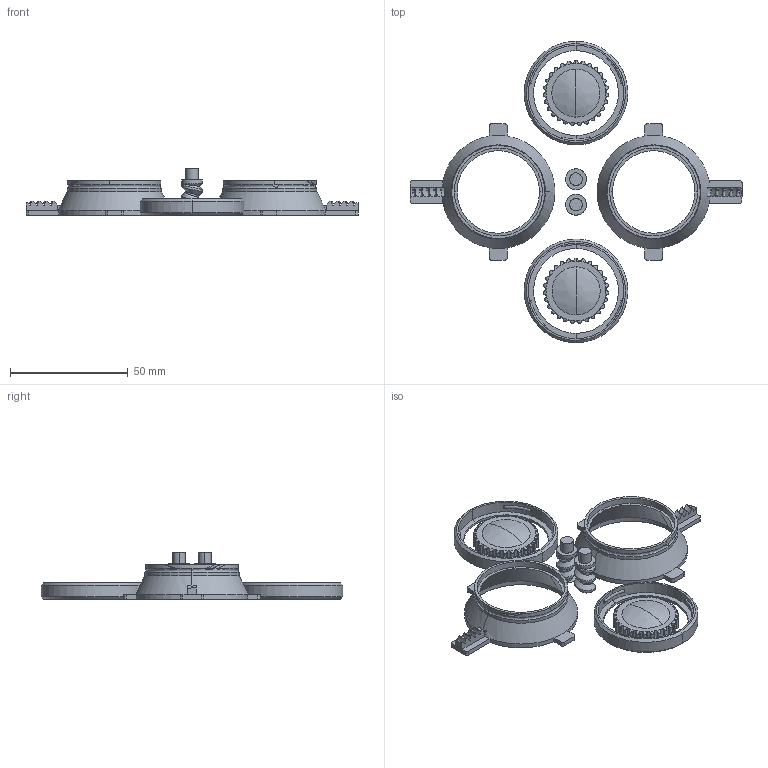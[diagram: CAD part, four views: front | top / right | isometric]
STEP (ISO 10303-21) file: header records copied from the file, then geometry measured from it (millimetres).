
FILE_DESCRIPTION(/* description */ (''),/* implementation_level */ '2;1');
FILE_NAME(/* name */ 'STATIC~1',/* time_stamp */ '2017-06-21T12:24:17-07:00',/* author */ (''),/* organization */ (''),/* preprocessor_version */ 'ST-DEVELOPER v15',/* originating_system */ '',/* authorisation */ '');
FILE_SCHEMA (('AUTOMOTIVE_DESIGN'));
Length unit declared in the file: millimetre
Products named in the file (1): Document
Bounding box: 141 x 128 x 19.8 mm (x, y, z)
Volume: 18418.8 mm3; surface area: 20611.7 mm2
Topology: 8 solids, 8 shells, 496 faces, 1332 edges, 852 vertices
Faces by surface type: bspline 302, plane 194
Entity records: 34046 total; most frequent: CARTESIAN_POINT 26166, ORIENTED_EDGE 2656, EDGE_CURVE 1328, B_SPLINE_CURVE_WITH_KNOTS 858, VERTEX_POINT 852, EDGE_LOOP 508, ADVANCED_FACE 496, FACE_OUTER_BOUND 496
